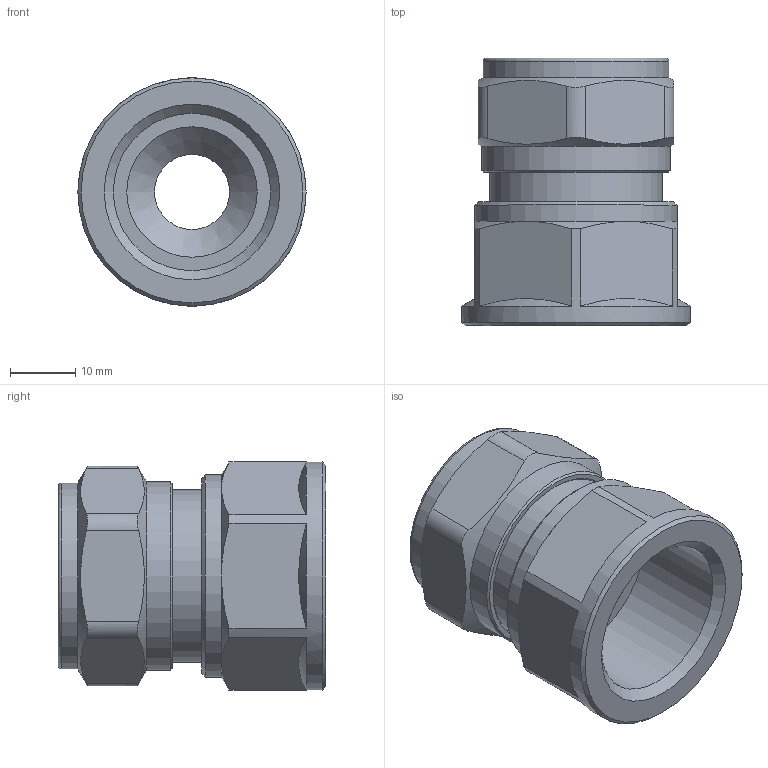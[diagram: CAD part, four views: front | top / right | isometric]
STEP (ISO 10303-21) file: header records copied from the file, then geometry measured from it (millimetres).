
FILE_DESCRIPTION(('STEP AP203'), '1');
FILE_NAME('VTm.302.N.002005', '', ('UNSPECIFIED'), ('UNSPECIFIED'), 'C3D Converter', 'C3D Toolkit', '');
FILE_SCHEMA(('CONFIG_CONTROL_DESIGN'));
Length unit declared in the file: millimetre
Products named in the file (1): ВР.302634.062.000 СБ
Bounding box: 35 x 41.03 x 35 mm (x, y, z)
Volume: 17616.7 mm3; surface area: 11738 mm2
Topology: 1 solids, 1 shells, 307 faces, 825 edges, 542 vertices
Faces by surface type: extrusion 117, plane 105, cylinder 32, torus 27, cone 26
Full cylindrical faces by diameter (mm): 11.5 x1, 15.8 x4, 15.9 x1, 20.1 x1, 20.2 x1, 20.7 x1, 24.118 x2, 26.441 x1, 28.5 x1, 29 x1, 31 x1, 35 x1
Entity records: 11388 total; most frequent: CARTESIAN_POINT 4379, ORIENTED_EDGE 1568, DIRECTION 1070, EDGE_CURVE 784, VERTEX_POINT 542, VECTOR 446, B_SPLINE_CURVE_WITH_KNOTS 431, EDGE_LOOP 374
